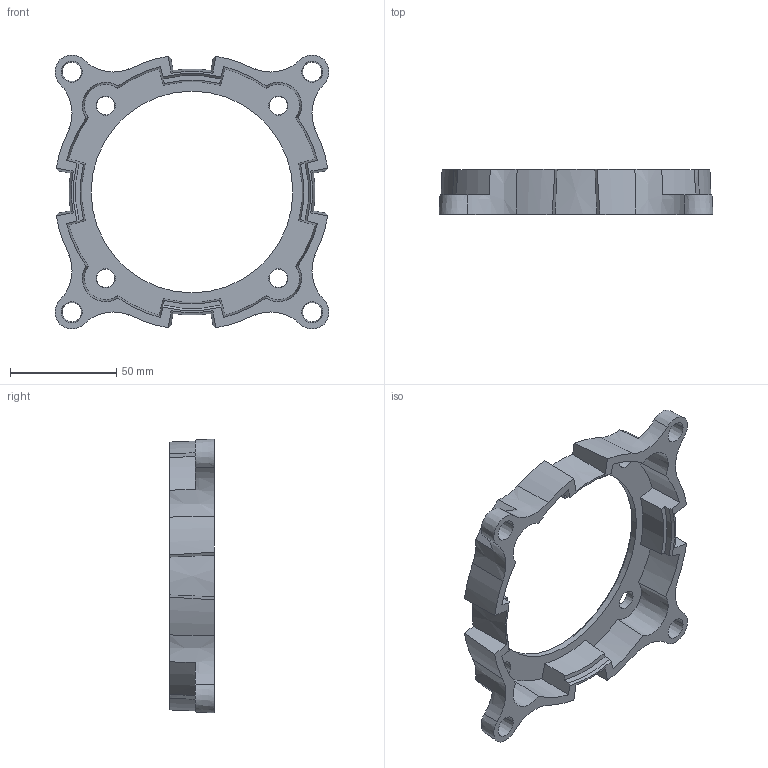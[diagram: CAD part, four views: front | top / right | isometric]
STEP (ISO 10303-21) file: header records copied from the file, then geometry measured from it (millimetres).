
FILE_DESCRIPTION((''),'2;1');
FILE_NAME('738_0541_PRT','2020-04-01T',('windchill'),(''),'CREO PARAMETRIC BY PTC INC, 2017020','CREO PARAMETRIC BY PTC INC, 2017020','');
FILE_SCHEMA(('AUTOMOTIVE_DESIGN { 1 0 10303 214 1 1 1 1 }'));
Length unit declared in the file: millimetre
Products named in the file (1): 738_0541_PRT
Bounding box: 129.04 x 21 x 129.04 mm (x, y, z)
Volume: 62884.5 mm3; surface area: 33749.3 mm2
Topology: 1 solids, 1 shells, 99 faces, 286 edges, 190 vertices
Faces by surface type: cone 66, plane 27, cylinder 6
Entity records: 4944 total; most frequent: CARTESIAN_POINT 861, ORIENTED_EDGE 572, DIRECTION 566, PRESENTATION_STYLE_ASSIGNMENT 287, STYLED_ITEM 287, CURVE_STYLE 286, EDGE_CURVE 286, AXIS2_PLACEMENT_3D 245
